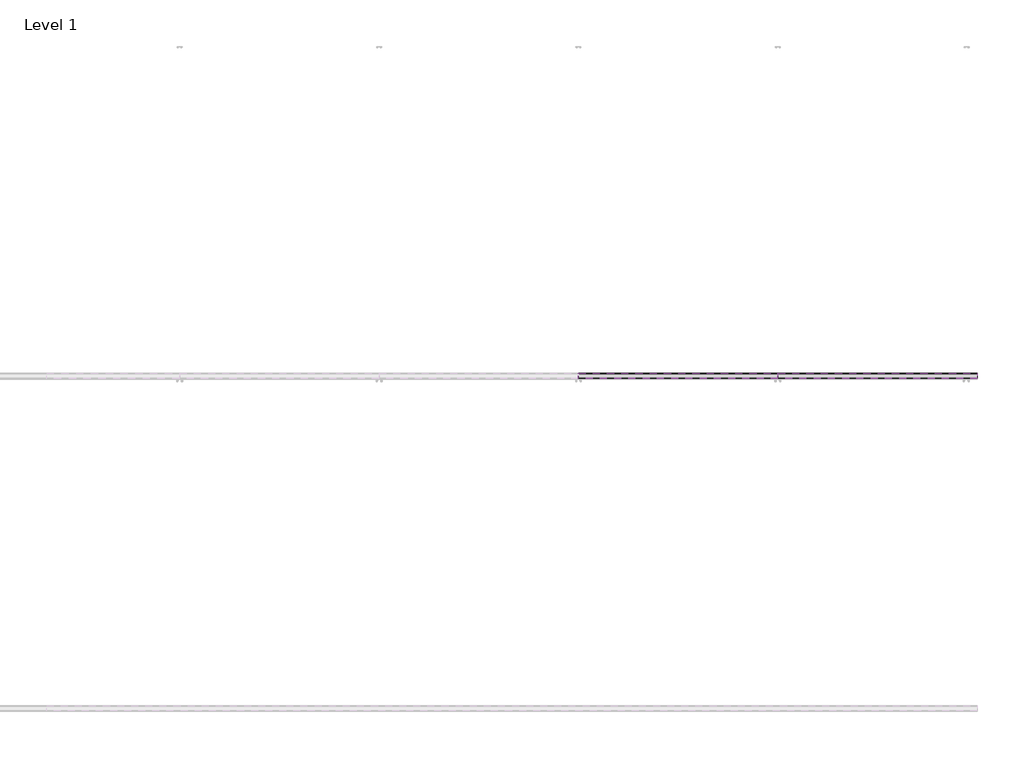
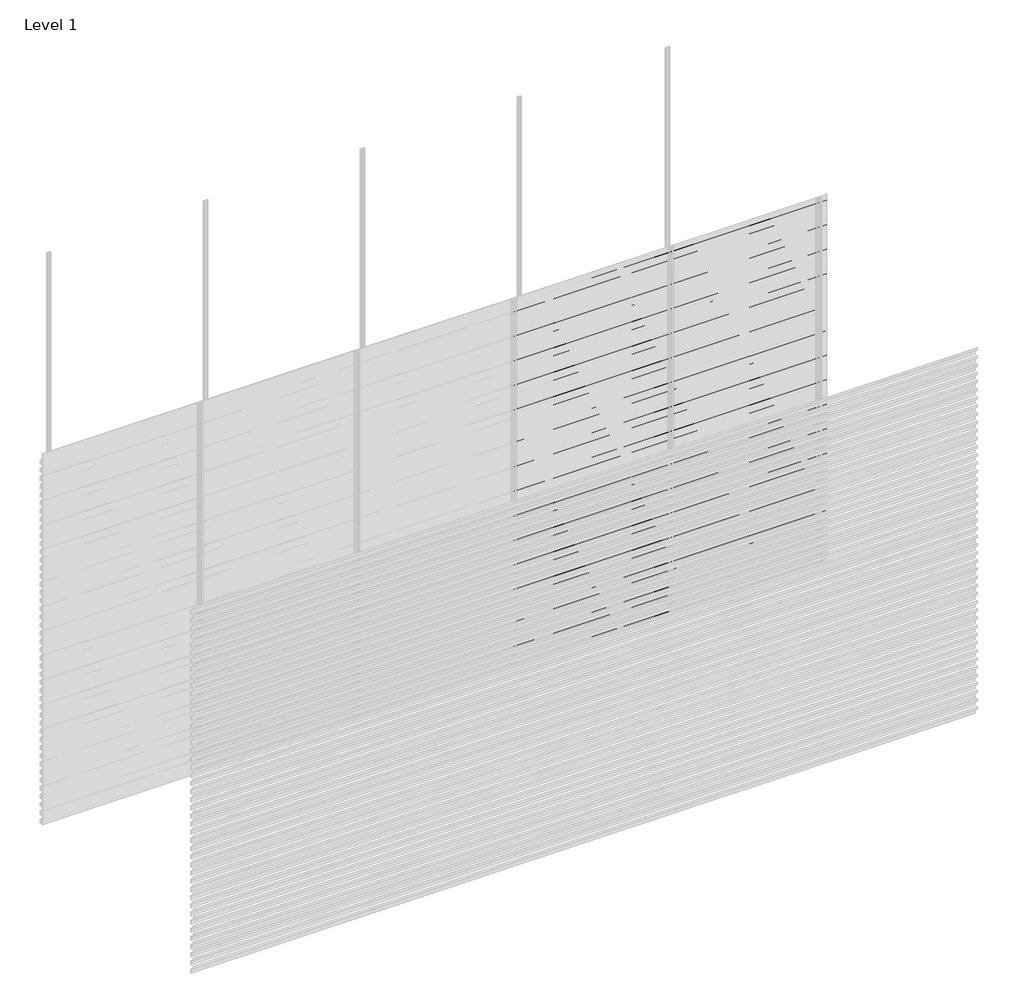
# One storey, part 30 of 33: 88 proxies.
"""IFC4 building model written with IfcOpenShell, lengths in millimetres."""

from ifc_helpers import new_model, si_unit, frame, origin, place, context, project, spatial, polyline, outline, extrude, element, save

model = new_model("IFC4")

# Units and contexts
model_context = context("Model", 3, world=origin())
ifc_project = project(units=[si_unit("LENGTHUNIT", "METRE", prefix="MILLI")], contexts=[model_context])

# Site, building, storey
site = spatial("IfcSite", under=ifc_project)
building = spatial("IfcBuilding", under=site)
storey = spatial("IfcBuildingStorey", under=building, Name="Level 1", Elevation=0.0)

# Proxies
placement = place(None, origin())
element("IfcBuildingElementProxy", 1, Name="Wall Sweeps", at=placement, inside=storey, context=model_context, shape_type="SweptSolid", body=[
    extrude(outline(polyline([(-5967.0, 92.0), (-5967.0, 59.0), (-5968.25, 59.7216933), (-5968.25, 91.2872415), (-5998.0, 112.0588647), (-5998.0, 132.0), (-5996.75, 132.0), (-5996.75, 112.7716232), (-5967.0, 92.0)])), frame((2400.0, 0.0, 0.0), z_axis=(1.0, 0.0, 0.0), x_axis=(0.0, 1.0, 0.0)), (0.0, 0.0, 1.0), 1200.0),
])
element("IfcBuildingElementProxy", 2, Name="Wall Sweeps", at=placement, inside=storey, context=model_context, shape_type="SweptSolid", body=[
    extrude(outline(polyline([(-5967.0, 26.0), (-5967.0, -7.0), (-5968.25, -6.2783067), (-5968.25, 25.2872415), (-5998.0, 46.0588647), (-5998.0, 66.0), (-5996.75, 66.0), (-5996.75, 46.7716232), (-5967.0, 26.0)])), frame((2400.0, 0.0, 0.0), z_axis=(1.0, 0.0, 0.0), x_axis=(0.0, 1.0, 0.0)), (0.0, 0.0, 1.0), 1200.0),
])
element("IfcBuildingElementProxy", 3, Name="Wall Sweeps", at=placement, inside=storey, context=model_context, shape_type="SweptSolid", body=[
    extrude(outline(polyline([(-5967.0, 2930.0), (-5967.0, 2897.0), (-5968.25, 2897.7216933), (-5968.25, 2929.2872415), (-5998.0, 2950.0588647), (-5998.0, 2970.0), (-5996.75, 2970.0), (-5996.75, 2950.7716232), (-5967.0, 2930.0)])), frame((3600.0, 0.0, 0.0), z_axis=(1.0, 0.0, 0.0), x_axis=(0.0, 1.0, 0.0)), (0.0, 0.0, 1.0), 1200.0),
])
element("IfcBuildingElementProxy", 4, Name="Wall Sweeps", at=placement, inside=storey, context=model_context, shape_type="SweptSolid", body=[
    extrude(outline(polyline([(-5967.0, 2864.0), (-5967.0, 2831.0), (-5968.25, 2831.7216933), (-5968.25, 2863.2872415), (-5998.0, 2884.0588647), (-5998.0, 2904.0), (-5996.75, 2904.0), (-5996.75, 2884.7716232), (-5967.0, 2864.0)])), frame((3600.0, 0.0, 0.0), z_axis=(1.0, 0.0, 0.0), x_axis=(0.0, 1.0, 0.0)), (0.0, 0.0, 1.0), 1200.0),
])
element("IfcBuildingElementProxy", 5, Name="Wall Sweeps", at=placement, inside=storey, context=model_context, shape_type="SweptSolid", body=[
    extrude(outline(polyline([(-5967.0, 2798.0), (-5967.0, 2765.0), (-5968.25, 2765.7216933), (-5968.25, 2797.2872415), (-5998.0, 2818.0588647), (-5998.0, 2838.0), (-5996.75, 2838.0), (-5996.75, 2818.7716232), (-5967.0, 2798.0)])), frame((3600.0, 0.0, 0.0), z_axis=(1.0, 0.0, 0.0), x_axis=(0.0, 1.0, 0.0)), (0.0, 0.0, 1.0), 1200.0),
])
element("IfcBuildingElementProxy", 6, Name="Wall Sweeps", at=placement, inside=storey, context=model_context, shape_type="SweptSolid", body=[
    extrude(outline(polyline([(-5967.0, 2732.0), (-5967.0, 2699.0), (-5968.25, 2699.7216933), (-5968.25, 2731.2872415), (-5998.0, 2752.0588647), (-5998.0, 2772.0), (-5996.75, 2772.0), (-5996.75, 2752.7716232), (-5967.0, 2732.0)])), frame((3600.0, 0.0, 0.0), z_axis=(1.0, 0.0, 0.0), x_axis=(0.0, 1.0, 0.0)), (0.0, 0.0, 1.0), 1200.0),
])
element("IfcBuildingElementProxy", 7, Name="Wall Sweeps", at=placement, inside=storey, context=model_context, shape_type="SweptSolid", body=[
    extrude(outline(polyline([(-5967.0, 2666.0), (-5967.0, 2633.0), (-5968.25, 2633.7216933), (-5968.25, 2665.2872415), (-5998.0, 2686.0588647), (-5998.0, 2706.0), (-5996.75, 2706.0), (-5996.75, 2686.7716232), (-5967.0, 2666.0)])), frame((3600.0, 0.0, 0.0), z_axis=(1.0, 0.0, 0.0), x_axis=(0.0, 1.0, 0.0)), (0.0, 0.0, 1.0), 1200.0),
])
element("IfcBuildingElementProxy", 8, Name="Wall Sweeps", at=placement, inside=storey, context=model_context, shape_type="SweptSolid", body=[
    extrude(outline(polyline([(-5967.0, 2600.0), (-5967.0, 2567.0), (-5968.25, 2567.7216933), (-5968.25, 2599.2872415), (-5998.0, 2620.0588647), (-5998.0, 2640.0), (-5996.75, 2640.0), (-5996.75, 2620.7716232), (-5967.0, 2600.0)])), frame((3600.0, 0.0, 0.0), z_axis=(1.0, 0.0, 0.0), x_axis=(0.0, 1.0, 0.0)), (0.0, 0.0, 1.0), 1200.0),
])
element("IfcBuildingElementProxy", 9, Name="Wall Sweeps", at=placement, inside=storey, context=model_context, shape_type="SweptSolid", body=[
    extrude(outline(polyline([(-5967.0, 2534.0), (-5967.0, 2501.0), (-5968.25, 2501.7216933), (-5968.25, 2533.2872415), (-5998.0, 2554.0588647), (-5998.0, 2574.0), (-5996.75, 2574.0), (-5996.75, 2554.7716232), (-5967.0, 2534.0)])), frame((3600.0, 0.0, 0.0), z_axis=(1.0, 0.0, 0.0), x_axis=(0.0, 1.0, 0.0)), (0.0, 0.0, 1.0), 1200.0),
])
element("IfcBuildingElementProxy", 10, Name="Wall Sweeps", at=placement, inside=storey, context=model_context, shape_type="SweptSolid", body=[
    extrude(outline(polyline([(-5967.0, 2468.0), (-5967.0, 2435.0), (-5968.25, 2435.7216933), (-5968.25, 2467.2872415), (-5998.0, 2488.0588647), (-5998.0, 2508.0), (-5996.75, 2508.0), (-5996.75, 2488.7716232), (-5967.0, 2468.0)])), frame((3600.0, 0.0, 0.0), z_axis=(1.0, 0.0, 0.0), x_axis=(0.0, 1.0, 0.0)), (0.0, 0.0, 1.0), 1200.0),
])
element("IfcBuildingElementProxy", 11, Name="Wall Sweeps", at=placement, inside=storey, context=model_context, shape_type="SweptSolid", body=[
    extrude(outline(polyline([(-5967.0, 2402.0), (-5967.0, 2369.0), (-5968.25, 2369.7216933), (-5968.25, 2401.2872415), (-5998.0, 2422.0588647), (-5998.0, 2442.0), (-5996.75, 2442.0), (-5996.75, 2422.7716232), (-5967.0, 2402.0)])), frame((3600.0, 0.0, 0.0), z_axis=(1.0, 0.0, 0.0), x_axis=(0.0, 1.0, 0.0)), (0.0, 0.0, 1.0), 1200.0),
])
element("IfcBuildingElementProxy", 12, Name="Wall Sweeps", at=placement, inside=storey, context=model_context, shape_type="SweptSolid", body=[
    extrude(outline(polyline([(-5967.0, 2336.0), (-5967.0, 2303.0), (-5968.25, 2303.7216933), (-5968.25, 2335.2872415), (-5998.0, 2356.0588647), (-5998.0, 2376.0), (-5996.75, 2376.0), (-5996.75, 2356.7716232), (-5967.0, 2336.0)])), frame((3600.0, 0.0, 0.0), z_axis=(1.0, 0.0, 0.0), x_axis=(0.0, 1.0, 0.0)), (0.0, 0.0, 1.0), 1200.0),
])
element("IfcBuildingElementProxy", 13, Name="Wall Sweeps", at=placement, inside=storey, context=model_context, shape_type="SweptSolid", body=[
    extrude(outline(polyline([(-5967.0, 2270.0), (-5967.0, 2237.0), (-5968.25, 2237.7216933), (-5968.25, 2269.2872415), (-5998.0, 2290.0588647), (-5998.0, 2310.0), (-5996.75, 2310.0), (-5996.75, 2290.7716232), (-5967.0, 2270.0)])), frame((3600.0, 0.0, 0.0), z_axis=(1.0, 0.0, 0.0), x_axis=(0.0, 1.0, 0.0)), (0.0, 0.0, 1.0), 1200.0),
])
element("IfcBuildingElementProxy", 14, Name="Wall Sweeps", at=placement, inside=storey, context=model_context, shape_type="SweptSolid", body=[
    extrude(outline(polyline([(-5967.0, 2204.0), (-5967.0, 2171.0), (-5968.25, 2171.7216933), (-5968.25, 2203.2872415), (-5998.0, 2224.0588647), (-5998.0, 2244.0), (-5996.75, 2244.0), (-5996.75, 2224.7716232), (-5967.0, 2204.0)])), frame((3600.0, 0.0, 0.0), z_axis=(1.0, 0.0, 0.0), x_axis=(0.0, 1.0, 0.0)), (0.0, 0.0, 1.0), 1200.0),
])
element("IfcBuildingElementProxy", 15, Name="Wall Sweeps", at=placement, inside=storey, context=model_context, shape_type="SweptSolid", body=[
    extrude(outline(polyline([(-5967.0, 2138.0), (-5967.0, 2105.0), (-5968.25, 2105.7216933), (-5968.25, 2137.2872415), (-5998.0, 2158.0588647), (-5998.0, 2178.0), (-5996.75, 2178.0), (-5996.75, 2158.7716232), (-5967.0, 2138.0)])), frame((3600.0, 0.0, 0.0), z_axis=(1.0, 0.0, 0.0), x_axis=(0.0, 1.0, 0.0)), (0.0, 0.0, 1.0), 1200.0),
])
element("IfcBuildingElementProxy", 16, Name="Wall Sweeps", at=placement, inside=storey, context=model_context, shape_type="SweptSolid", body=[
    extrude(outline(polyline([(-5967.0, 2072.0), (-5967.0, 2039.0), (-5968.25, 2039.7216933), (-5968.25, 2071.2872415), (-5998.0, 2092.0588647), (-5998.0, 2112.0), (-5996.75, 2112.0), (-5996.75, 2092.7716232), (-5967.0, 2072.0)])), frame((3600.0, 0.0, 0.0), z_axis=(1.0, 0.0, 0.0), x_axis=(0.0, 1.0, 0.0)), (0.0, 0.0, 1.0), 1200.0),
])
element("IfcBuildingElementProxy", 17, Name="Wall Sweeps", at=placement, inside=storey, context=model_context, shape_type="SweptSolid", body=[
    extrude(outline(polyline([(-5967.0, 2006.0), (-5967.0, 1973.0), (-5968.25, 1973.7216933), (-5968.25, 2005.2872415), (-5998.0, 2026.0588647), (-5998.0, 2046.0), (-5996.75, 2046.0), (-5996.75, 2026.7716232), (-5967.0, 2006.0)])), frame((3600.0, 0.0, 0.0), z_axis=(1.0, 0.0, 0.0), x_axis=(0.0, 1.0, 0.0)), (0.0, 0.0, 1.0), 1200.0),
])
element("IfcBuildingElementProxy", 18, Name="Wall Sweeps", at=placement, inside=storey, context=model_context, shape_type="SweptSolid", body=[
    extrude(outline(polyline([(-5967.0, 1940.0), (-5967.0, 1907.0), (-5968.25, 1907.7216933), (-5968.25, 1939.2872415), (-5998.0, 1960.0588647), (-5998.0, 1980.0), (-5996.75, 1980.0), (-5996.75, 1960.7716232), (-5967.0, 1940.0)])), frame((3600.0, 0.0, 0.0), z_axis=(1.0, 0.0, 0.0), x_axis=(0.0, 1.0, 0.0)), (0.0, 0.0, 1.0), 1200.0),
])
element("IfcBuildingElementProxy", 19, Name="Wall Sweeps", at=placement, inside=storey, context=model_context, shape_type="SweptSolid", body=[
    extrude(outline(polyline([(-5967.0, 1874.0), (-5967.0, 1841.0), (-5968.25, 1841.7216933), (-5968.25, 1873.2872415), (-5998.0, 1894.0588647), (-5998.0, 1914.0), (-5996.75, 1914.0), (-5996.75, 1894.7716232), (-5967.0, 1874.0)])), frame((3600.0, 0.0, 0.0), z_axis=(1.0, 0.0, 0.0), x_axis=(0.0, 1.0, 0.0)), (0.0, 0.0, 1.0), 1200.0),
])
element("IfcBuildingElementProxy", 20, Name="Wall Sweeps", at=placement, inside=storey, context=model_context, shape_type="SweptSolid", body=[
    extrude(outline(polyline([(-5967.0, 1808.0), (-5967.0, 1775.0), (-5968.25, 1775.7216933), (-5968.25, 1807.2872415), (-5998.0, 1828.0588647), (-5998.0, 1848.0), (-5996.75, 1848.0), (-5996.75, 1828.7716232), (-5967.0, 1808.0)])), frame((3600.0, 0.0, 0.0), z_axis=(1.0, 0.0, 0.0), x_axis=(0.0, 1.0, 0.0)), (0.0, 0.0, 1.0), 1200.0),
])
element("IfcBuildingElementProxy", 21, Name="Wall Sweeps", at=placement, inside=storey, context=model_context, shape_type="SweptSolid", body=[
    extrude(outline(polyline([(-5967.0, 1742.0), (-5967.0, 1709.0), (-5968.25, 1709.7216933), (-5968.25, 1741.2872415), (-5998.0, 1762.0588647), (-5998.0, 1782.0), (-5996.75, 1782.0), (-5996.75, 1762.7716232), (-5967.0, 1742.0)])), frame((3600.0, 0.0, 0.0), z_axis=(1.0, 0.0, 0.0), x_axis=(0.0, 1.0, 0.0)), (0.0, 0.0, 1.0), 1200.0),
])
element("IfcBuildingElementProxy", 22, Name="Wall Sweeps", at=placement, inside=storey, context=model_context, shape_type="SweptSolid", body=[
    extrude(outline(polyline([(-5967.0, 1676.0), (-5967.0, 1643.0), (-5968.25, 1643.7216933), (-5968.25, 1675.2872415), (-5998.0, 1696.0588647), (-5998.0, 1716.0), (-5996.75, 1716.0), (-5996.75, 1696.7716232), (-5967.0, 1676.0)])), frame((3600.0, 0.0, 0.0), z_axis=(1.0, 0.0, 0.0), x_axis=(0.0, 1.0, 0.0)), (0.0, 0.0, 1.0), 1200.0),
])
element("IfcBuildingElementProxy", 23, Name="Wall Sweeps", at=placement, inside=storey, context=model_context, shape_type="SweptSolid", body=[
    extrude(outline(polyline([(-5967.0, 1610.0), (-5967.0, 1577.0), (-5968.25, 1577.7216933), (-5968.25, 1609.2872415), (-5998.0, 1630.0588647), (-5998.0, 1650.0), (-5996.75, 1650.0), (-5996.75, 1630.7716232), (-5967.0, 1610.0)])), frame((3600.0, 0.0, 0.0), z_axis=(1.0, 0.0, 0.0), x_axis=(0.0, 1.0, 0.0)), (0.0, 0.0, 1.0), 1200.0),
])
element("IfcBuildingElementProxy", 24, Name="Wall Sweeps", at=placement, inside=storey, context=model_context, shape_type="SweptSolid", body=[
    extrude(outline(polyline([(-5967.0, 1544.0), (-5967.0, 1511.0), (-5968.25, 1511.7216933), (-5968.25, 1543.2872415), (-5998.0, 1564.0588647), (-5998.0, 1584.0), (-5996.75, 1584.0), (-5996.75, 1564.7716232), (-5967.0, 1544.0)])), frame((3600.0, 0.0, 0.0), z_axis=(1.0, 0.0, 0.0), x_axis=(0.0, 1.0, 0.0)), (0.0, 0.0, 1.0), 1200.0),
])
element("IfcBuildingElementProxy", 25, Name="Wall Sweeps", at=placement, inside=storey, context=model_context, shape_type="SweptSolid", body=[
    extrude(outline(polyline([(-5967.0, 1478.0), (-5967.0, 1445.0), (-5968.25, 1445.7216933), (-5968.25, 1477.2872415), (-5998.0, 1498.0588647), (-5998.0, 1518.0), (-5996.75, 1518.0), (-5996.75, 1498.7716232), (-5967.0, 1478.0)])), frame((3600.0, 0.0, 0.0), z_axis=(1.0, 0.0, 0.0), x_axis=(0.0, 1.0, 0.0)), (0.0, 0.0, 1.0), 1200.0),
])
element("IfcBuildingElementProxy", 26, Name="Wall Sweeps", at=placement, inside=storey, context=model_context, shape_type="SweptSolid", body=[
    extrude(outline(polyline([(-5967.0, 1412.0), (-5967.0, 1379.0), (-5968.25, 1379.7216933), (-5968.25, 1411.2872415), (-5998.0, 1432.0588647), (-5998.0, 1452.0), (-5996.75, 1452.0), (-5996.75, 1432.7716232), (-5967.0, 1412.0)])), frame((3600.0, 0.0, 0.0), z_axis=(1.0, 0.0, 0.0), x_axis=(0.0, 1.0, 0.0)), (0.0, 0.0, 1.0), 1200.0),
])
element("IfcBuildingElementProxy", 27, Name="Wall Sweeps", at=placement, inside=storey, context=model_context, shape_type="SweptSolid", body=[
    extrude(outline(polyline([(-5967.0, 1346.0), (-5967.0, 1313.0), (-5968.25, 1313.7216933), (-5968.25, 1345.2872415), (-5998.0, 1366.0588647), (-5998.0, 1386.0), (-5996.75, 1386.0), (-5996.75, 1366.7716232), (-5967.0, 1346.0)])), frame((3600.0, 0.0, 0.0), z_axis=(1.0, 0.0, 0.0), x_axis=(0.0, 1.0, 0.0)), (0.0, 0.0, 1.0), 1200.0),
])
element("IfcBuildingElementProxy", 28, Name="Wall Sweeps", at=placement, inside=storey, context=model_context, shape_type="SweptSolid", body=[
    extrude(outline(polyline([(-5967.0, 1280.0), (-5967.0, 1247.0), (-5968.25, 1247.7216933), (-5968.25, 1279.2872415), (-5998.0, 1300.0588647), (-5998.0, 1320.0), (-5996.75, 1320.0), (-5996.75, 1300.7716232), (-5967.0, 1280.0)])), frame((3600.0, 0.0, 0.0), z_axis=(1.0, 0.0, 0.0), x_axis=(0.0, 1.0, 0.0)), (0.0, 0.0, 1.0), 1200.0),
])
element("IfcBuildingElementProxy", 29, Name="Wall Sweeps", at=placement, inside=storey, context=model_context, shape_type="SweptSolid", body=[
    extrude(outline(polyline([(-5967.0, 1214.0), (-5967.0, 1181.0), (-5968.25, 1181.7216933), (-5968.25, 1213.2872415), (-5998.0, 1234.0588647), (-5998.0, 1254.0), (-5996.75, 1254.0), (-5996.75, 1234.7716232), (-5967.0, 1214.0)])), frame((3600.0, 0.0, 0.0), z_axis=(1.0, 0.0, 0.0), x_axis=(0.0, 1.0, 0.0)), (0.0, 0.0, 1.0), 1200.0),
])
element("IfcBuildingElementProxy", 30, Name="Wall Sweeps", at=placement, inside=storey, context=model_context, shape_type="SweptSolid", body=[
    extrude(outline(polyline([(-5967.0, 1148.0), (-5967.0, 1115.0), (-5968.25, 1115.7216933), (-5968.25, 1147.2872415), (-5998.0, 1168.0588647), (-5998.0, 1188.0), (-5996.75, 1188.0), (-5996.75, 1168.7716232), (-5967.0, 1148.0)])), frame((3600.0, 0.0, 0.0), z_axis=(1.0, 0.0, 0.0), x_axis=(0.0, 1.0, 0.0)), (0.0, 0.0, 1.0), 1200.0),
])
element("IfcBuildingElementProxy", 31, Name="Wall Sweeps", at=placement, inside=storey, context=model_context, shape_type="SweptSolid", body=[
    extrude(outline(polyline([(-5967.0, 1082.0), (-5967.0, 1049.0), (-5968.25, 1049.7216933), (-5968.25, 1081.2872415), (-5998.0, 1102.0588647), (-5998.0, 1122.0), (-5996.75, 1122.0), (-5996.75, 1102.7716232), (-5967.0, 1082.0)])), frame((3600.0, 0.0, 0.0), z_axis=(1.0, 0.0, 0.0), x_axis=(0.0, 1.0, 0.0)), (0.0, 0.0, 1.0), 1200.0),
])
element("IfcBuildingElementProxy", 32, Name="Wall Sweeps", at=placement, inside=storey, context=model_context, shape_type="SweptSolid", body=[
    extrude(outline(polyline([(-5967.0, 1016.0), (-5967.0, 983.0), (-5968.25, 983.7216933), (-5968.25, 1015.2872415), (-5998.0, 1036.0588647), (-5998.0, 1056.0), (-5996.75, 1056.0), (-5996.75, 1036.7716232), (-5967.0, 1016.0)])), frame((3600.0, 0.0, 0.0), z_axis=(1.0, 0.0, 0.0), x_axis=(0.0, 1.0, 0.0)), (0.0, 0.0, 1.0), 1200.0),
])
element("IfcBuildingElementProxy", 33, Name="Wall Sweeps", at=placement, inside=storey, context=model_context, shape_type="SweptSolid", body=[
    extrude(outline(polyline([(-5967.0, 950.0), (-5967.0, 917.0), (-5968.25, 917.7216933), (-5968.25, 949.2872415), (-5998.0, 970.0588647), (-5998.0, 990.0), (-5996.75, 990.0), (-5996.75, 970.7716232), (-5967.0, 950.0)])), frame((3600.0, 0.0, 0.0), z_axis=(1.0, 0.0, 0.0), x_axis=(0.0, 1.0, 0.0)), (0.0, 0.0, 1.0), 1200.0),
])
element("IfcBuildingElementProxy", 34, Name="Wall Sweeps", at=placement, inside=storey, context=model_context, shape_type="SweptSolid", body=[
    extrude(outline(polyline([(-5967.0, 884.0), (-5967.0, 851.0), (-5968.25, 851.7216933), (-5968.25, 883.2872415), (-5998.0, 904.0588647), (-5998.0, 924.0), (-5996.75, 924.0), (-5996.75, 904.7716232), (-5967.0, 884.0)])), frame((3600.0, 0.0, 0.0), z_axis=(1.0, 0.0, 0.0), x_axis=(0.0, 1.0, 0.0)), (0.0, 0.0, 1.0), 1200.0),
])
element("IfcBuildingElementProxy", 35, Name="Wall Sweeps", at=placement, inside=storey, context=model_context, shape_type="SweptSolid", body=[
    extrude(outline(polyline([(-5967.0, 818.0), (-5967.0, 785.0), (-5968.25, 785.7216933), (-5968.25, 817.2872415), (-5998.0, 838.0588647), (-5998.0, 858.0), (-5996.75, 858.0), (-5996.75, 838.7716232), (-5967.0, 818.0)])), frame((3600.0, 0.0, 0.0), z_axis=(1.0, 0.0, 0.0), x_axis=(0.0, 1.0, 0.0)), (0.0, 0.0, 1.0), 1200.0),
])
element("IfcBuildingElementProxy", 36, Name="Wall Sweeps", at=placement, inside=storey, context=model_context, shape_type="SweptSolid", body=[
    extrude(outline(polyline([(-5967.0, 752.0), (-5967.0, 719.0), (-5968.25, 719.7216933), (-5968.25, 751.2872415), (-5998.0, 772.0588647), (-5998.0, 792.0), (-5996.75, 792.0), (-5996.75, 772.7716232), (-5967.0, 752.0)])), frame((3600.0, 0.0, 0.0), z_axis=(1.0, 0.0, 0.0), x_axis=(0.0, 1.0, 0.0)), (0.0, 0.0, 1.0), 1200.0),
])
element("IfcBuildingElementProxy", 37, Name="Wall Sweeps", at=placement, inside=storey, context=model_context, shape_type="SweptSolid", body=[
    extrude(outline(polyline([(-5967.0, 686.0), (-5967.0, 653.0), (-5968.25, 653.7216933), (-5968.25, 685.2872415), (-5998.0, 706.0588647), (-5998.0, 726.0), (-5996.75, 726.0), (-5996.75, 706.7716232), (-5967.0, 686.0)])), frame((3600.0, 0.0, 0.0), z_axis=(1.0, 0.0, 0.0), x_axis=(0.0, 1.0, 0.0)), (0.0, 0.0, 1.0), 1200.0),
])
element("IfcBuildingElementProxy", 38, Name="Wall Sweeps", at=placement, inside=storey, context=model_context, shape_type="SweptSolid", body=[
    extrude(outline(polyline([(-5967.0, 620.0), (-5967.0, 587.0), (-5968.25, 587.7216933), (-5968.25, 619.2872415), (-5998.0, 640.0588647), (-5998.0, 660.0), (-5996.75, 660.0), (-5996.75, 640.7716232), (-5967.0, 620.0)])), frame((3600.0, 0.0, 0.0), z_axis=(1.0, 0.0, 0.0), x_axis=(0.0, 1.0, 0.0)), (0.0, 0.0, 1.0), 1200.0),
])
element("IfcBuildingElementProxy", 39, Name="Wall Sweeps", at=placement, inside=storey, context=model_context, shape_type="SweptSolid", body=[
    extrude(outline(polyline([(-5967.0, 554.0), (-5967.0, 521.0), (-5968.25, 521.7216933), (-5968.25, 553.2872415), (-5998.0, 574.0588647), (-5998.0, 594.0), (-5996.75, 594.0), (-5996.75, 574.7716232), (-5967.0, 554.0)])), frame((3600.0, 0.0, 0.0), z_axis=(1.0, 0.0, 0.0), x_axis=(0.0, 1.0, 0.0)), (0.0, 0.0, 1.0), 1200.0),
])
element("IfcBuildingElementProxy", 40, Name="Wall Sweeps", at=placement, inside=storey, context=model_context, shape_type="SweptSolid", body=[
    extrude(outline(polyline([(-5967.0, 488.0), (-5967.0, 455.0), (-5968.25, 455.7216933), (-5968.25, 487.2872415), (-5998.0, 508.0588647), (-5998.0, 528.0), (-5996.75, 528.0), (-5996.75, 508.7716232), (-5967.0, 488.0)])), frame((3600.0, 0.0, 0.0), z_axis=(1.0, 0.0, 0.0), x_axis=(0.0, 1.0, 0.0)), (0.0, 0.0, 1.0), 1200.0),
])
element("IfcBuildingElementProxy", 41, Name="Wall Sweeps", at=placement, inside=storey, context=model_context, shape_type="SweptSolid", body=[
    extrude(outline(polyline([(-5967.0, 422.0), (-5967.0, 389.0), (-5968.25, 389.7216933), (-5968.25, 421.2872415), (-5998.0, 442.0588647), (-5998.0, 462.0), (-5996.75, 462.0), (-5996.75, 442.7716232), (-5967.0, 422.0)])), frame((3600.0, 0.0, 0.0), z_axis=(1.0, 0.0, 0.0), x_axis=(0.0, 1.0, 0.0)), (0.0, 0.0, 1.0), 1200.0),
])
element("IfcBuildingElementProxy", 42, Name="Wall Sweeps", at=placement, inside=storey, context=model_context, shape_type="SweptSolid", body=[
    extrude(outline(polyline([(-5967.0, 356.0), (-5967.0, 323.0), (-5968.25, 323.7216933), (-5968.25, 355.2872415), (-5998.0, 376.0588647), (-5998.0, 396.0), (-5996.75, 396.0), (-5996.75, 376.7716232), (-5967.0, 356.0)])), frame((3600.0, 0.0, 0.0), z_axis=(1.0, 0.0, 0.0), x_axis=(0.0, 1.0, 0.0)), (0.0, 0.0, 1.0), 1200.0),
])
element("IfcBuildingElementProxy", 43, Name="Wall Sweeps", at=placement, inside=storey, context=model_context, shape_type="SweptSolid", body=[
    extrude(outline(polyline([(-5967.0, 290.0), (-5967.0, 257.0), (-5968.25, 257.7216933), (-5968.25, 289.2872415), (-5998.0, 310.0588647), (-5998.0, 330.0), (-5996.75, 330.0), (-5996.75, 310.7716232), (-5967.0, 290.0)])), frame((3600.0, 0.0, 0.0), z_axis=(1.0, 0.0, 0.0), x_axis=(0.0, 1.0, 0.0)), (0.0, 0.0, 1.0), 1200.0),
])
element("IfcBuildingElementProxy", 44, Name="Wall Sweeps", at=placement, inside=storey, context=model_context, shape_type="SweptSolid", body=[
    extrude(outline(polyline([(-5967.0, 224.0), (-5967.0, 191.0), (-5968.25, 191.7216933), (-5968.25, 223.2872415), (-5998.0, 244.0588647), (-5998.0, 264.0), (-5996.75, 264.0), (-5996.75, 244.7716232), (-5967.0, 224.0)])), frame((3600.0, 0.0, 0.0), z_axis=(1.0, 0.0, 0.0), x_axis=(0.0, 1.0, 0.0)), (0.0, 0.0, 1.0), 1200.0),
])
element("IfcBuildingElementProxy", 45, Name="Wall Sweeps", at=placement, inside=storey, context=model_context, shape_type="SweptSolid", body=[
    extrude(outline(polyline([(-5967.0, 158.0), (-5967.0, 125.0), (-5968.25, 125.7216933), (-5968.25, 157.2872415), (-5998.0, 178.0588647), (-5998.0, 198.0), (-5996.75, 198.0), (-5996.75, 178.7716232), (-5967.0, 158.0)])), frame((3600.0, 0.0, 0.0), z_axis=(1.0, 0.0, 0.0), x_axis=(0.0, 1.0, 0.0)), (0.0, 0.0, 1.0), 1200.0),
])
element("IfcBuildingElementProxy", 46, Name="Wall Sweeps", at=placement, inside=storey, context=model_context, shape_type="SweptSolid", body=[
    extrude(outline(polyline([(-5967.0, 92.0), (-5967.0, 59.0), (-5968.25, 59.7216933), (-5968.25, 91.2872415), (-5998.0, 112.0588647), (-5998.0, 132.0), (-5996.75, 132.0), (-5996.75, 112.7716232), (-5967.0, 92.0)])), frame((3600.0, 0.0, 0.0), z_axis=(1.0, 0.0, 0.0), x_axis=(0.0, 1.0, 0.0)), (0.0, 0.0, 1.0), 1200.0),
])
element("IfcBuildingElementProxy", 47, Name="Wall Sweeps", at=placement, inside=storey, context=model_context, shape_type="SweptSolid", body=[
    extrude(outline(polyline([(-5967.0, 26.0), (-5967.0, -7.0), (-5968.25, -6.2783067), (-5968.25, 25.2872415), (-5998.0, 46.0588647), (-5998.0, 66.0), (-5996.75, 66.0), (-5996.75, 46.7716232), (-5967.0, 26.0)])), frame((3600.0, 0.0, 0.0), z_axis=(1.0, 0.0, 0.0), x_axis=(0.0, 1.0, 0.0)), (0.0, 0.0, 1.0), 1200.0),
])
element("IfcBuildingElementProxy", 48, Name="Wall Sweeps", at=placement, inside=storey, context=model_context, shape_type="SweptSolid", body=[
    extrude(outline(polyline([(-5967.0, 2930.0), (-5967.0, 2897.0), (-5968.25, 2897.7216933), (-5968.25, 2929.2872415), (-5998.0, 2950.0588647), (-5998.0, 2970.0), (-5996.75, 2970.0), (-5996.75, 2950.7716232), (-5967.0, 2930.0)])), frame((4800.0, 0.0, 0.0), z_axis=(1.0, 0.0, 0.0), x_axis=(0.0, 1.0, 0.0)), (0.0, 0.0, 1.0), 1200.0),
])
element("IfcBuildingElementProxy", 49, Name="Wall Sweeps", at=placement, inside=storey, context=model_context, shape_type="SweptSolid", body=[
    extrude(outline(polyline([(-5967.0, 2864.0), (-5967.0, 2831.0), (-5968.25, 2831.7216933), (-5968.25, 2863.2872415), (-5998.0, 2884.0588647), (-5998.0, 2904.0), (-5996.75, 2904.0), (-5996.75, 2884.7716232), (-5967.0, 2864.0)])), frame((4800.0, 0.0, 0.0), z_axis=(1.0, 0.0, 0.0), x_axis=(0.0, 1.0, 0.0)), (0.0, 0.0, 1.0), 1200.0),
])
element("IfcBuildingElementProxy", 50, Name="Wall Sweeps", at=placement, inside=storey, context=model_context, shape_type="SweptSolid", body=[
    extrude(outline(polyline([(-5967.0, 2798.0), (-5967.0, 2765.0), (-5968.25, 2765.7216933), (-5968.25, 2797.2872415), (-5998.0, 2818.0588647), (-5998.0, 2838.0), (-5996.75, 2838.0), (-5996.75, 2818.7716232), (-5967.0, 2798.0)])), frame((4800.0, 0.0, 0.0), z_axis=(1.0, 0.0, 0.0), x_axis=(0.0, 1.0, 0.0)), (0.0, 0.0, 1.0), 1200.0),
])
element("IfcBuildingElementProxy", 51, Name="Wall Sweeps", at=placement, inside=storey, context=model_context, shape_type="SweptSolid", body=[
    extrude(outline(polyline([(-5967.0, 2732.0), (-5967.0, 2699.0), (-5968.25, 2699.7216933), (-5968.25, 2731.2872415), (-5998.0, 2752.0588647), (-5998.0, 2772.0), (-5996.75, 2772.0), (-5996.75, 2752.7716232), (-5967.0, 2732.0)])), frame((4800.0, 0.0, 0.0), z_axis=(1.0, 0.0, 0.0), x_axis=(0.0, 1.0, 0.0)), (0.0, 0.0, 1.0), 1200.0),
])
element("IfcBuildingElementProxy", 52, Name="Wall Sweeps", at=placement, inside=storey, context=model_context, shape_type="SweptSolid", body=[
    extrude(outline(polyline([(-5967.0, 2666.0), (-5967.0, 2633.0), (-5968.25, 2633.7216933), (-5968.25, 2665.2872415), (-5998.0, 2686.0588647), (-5998.0, 2706.0), (-5996.75, 2706.0), (-5996.75, 2686.7716232), (-5967.0, 2666.0)])), frame((4800.0, 0.0, 0.0), z_axis=(1.0, 0.0, 0.0), x_axis=(0.0, 1.0, 0.0)), (0.0, 0.0, 1.0), 1200.0),
])
element("IfcBuildingElementProxy", 53, Name="Wall Sweeps", at=placement, inside=storey, context=model_context, shape_type="SweptSolid", body=[
    extrude(outline(polyline([(-5967.0, 2600.0), (-5967.0, 2567.0), (-5968.25, 2567.7216933), (-5968.25, 2599.2872415), (-5998.0, 2620.0588647), (-5998.0, 2640.0), (-5996.75, 2640.0), (-5996.75, 2620.7716232), (-5967.0, 2600.0)])), frame((4800.0, 0.0, 0.0), z_axis=(1.0, 0.0, 0.0), x_axis=(0.0, 1.0, 0.0)), (0.0, 0.0, 1.0), 1200.0),
])
element("IfcBuildingElementProxy", 54, Name="Wall Sweeps", at=placement, inside=storey, context=model_context, shape_type="SweptSolid", body=[
    extrude(outline(polyline([(-5967.0, 2534.0), (-5967.0, 2501.0), (-5968.25, 2501.7216933), (-5968.25, 2533.2872415), (-5998.0, 2554.0588647), (-5998.0, 2574.0), (-5996.75, 2574.0), (-5996.75, 2554.7716232), (-5967.0, 2534.0)])), frame((4800.0, 0.0, 0.0), z_axis=(1.0, 0.0, 0.0), x_axis=(0.0, 1.0, 0.0)), (0.0, 0.0, 1.0), 1200.0),
])
element("IfcBuildingElementProxy", 55, Name="Wall Sweeps", at=placement, inside=storey, context=model_context, shape_type="SweptSolid", body=[
    extrude(outline(polyline([(-5967.0, 2468.0), (-5967.0, 2435.0), (-5968.25, 2435.7216933), (-5968.25, 2467.2872415), (-5998.0, 2488.0588647), (-5998.0, 2508.0), (-5996.75, 2508.0), (-5996.75, 2488.7716232), (-5967.0, 2468.0)])), frame((4800.0, 0.0, 0.0), z_axis=(1.0, 0.0, 0.0), x_axis=(0.0, 1.0, 0.0)), (0.0, 0.0, 1.0), 1200.0),
])
element("IfcBuildingElementProxy", 56, Name="Wall Sweeps", at=placement, inside=storey, context=model_context, shape_type="SweptSolid", body=[
    extrude(outline(polyline([(-5967.0, 2402.0), (-5967.0, 2369.0), (-5968.25, 2369.7216933), (-5968.25, 2401.2872415), (-5998.0, 2422.0588647), (-5998.0, 2442.0), (-5996.75, 2442.0), (-5996.75, 2422.7716232), (-5967.0, 2402.0)])), frame((4800.0, 0.0, 0.0), z_axis=(1.0, 0.0, 0.0), x_axis=(0.0, 1.0, 0.0)), (0.0, 0.0, 1.0), 1200.0),
])
element("IfcBuildingElementProxy", 57, Name="Wall Sweeps", at=placement, inside=storey, context=model_context, shape_type="SweptSolid", body=[
    extrude(outline(polyline([(-5967.0, 2336.0), (-5967.0, 2303.0), (-5968.25, 2303.7216933), (-5968.25, 2335.2872415), (-5998.0, 2356.0588647), (-5998.0, 2376.0), (-5996.75, 2376.0), (-5996.75, 2356.7716232), (-5967.0, 2336.0)])), frame((4800.0, 0.0, 0.0), z_axis=(1.0, 0.0, 0.0), x_axis=(0.0, 1.0, 0.0)), (0.0, 0.0, 1.0), 1200.0),
])
element("IfcBuildingElementProxy", 58, Name="Wall Sweeps", at=placement, inside=storey, context=model_context, shape_type="SweptSolid", body=[
    extrude(outline(polyline([(-5967.0, 2270.0), (-5967.0, 2237.0), (-5968.25, 2237.7216933), (-5968.25, 2269.2872415), (-5998.0, 2290.0588647), (-5998.0, 2310.0), (-5996.75, 2310.0), (-5996.75, 2290.7716232), (-5967.0, 2270.0)])), frame((4800.0, 0.0, 0.0), z_axis=(1.0, 0.0, 0.0), x_axis=(0.0, 1.0, 0.0)), (0.0, 0.0, 1.0), 1200.0),
])
element("IfcBuildingElementProxy", 59, Name="Wall Sweeps", at=placement, inside=storey, context=model_context, shape_type="SweptSolid", body=[
    extrude(outline(polyline([(-5967.0, 2204.0), (-5967.0, 2171.0), (-5968.25, 2171.7216933), (-5968.25, 2203.2872415), (-5998.0, 2224.0588647), (-5998.0, 2244.0), (-5996.75, 2244.0), (-5996.75, 2224.7716232), (-5967.0, 2204.0)])), frame((4800.0, 0.0, 0.0), z_axis=(1.0, 0.0, 0.0), x_axis=(0.0, 1.0, 0.0)), (0.0, 0.0, 1.0), 1200.0),
])
element("IfcBuildingElementProxy", 60, Name="Wall Sweeps", at=placement, inside=storey, context=model_context, shape_type="SweptSolid", body=[
    extrude(outline(polyline([(-5967.0, 2138.0), (-5967.0, 2105.0), (-5968.25, 2105.7216933), (-5968.25, 2137.2872415), (-5998.0, 2158.0588647), (-5998.0, 2178.0), (-5996.75, 2178.0), (-5996.75, 2158.7716232), (-5967.0, 2138.0)])), frame((4800.0, 0.0, 0.0), z_axis=(1.0, 0.0, 0.0), x_axis=(0.0, 1.0, 0.0)), (0.0, 0.0, 1.0), 1200.0),
])
element("IfcBuildingElementProxy", 61, Name="Wall Sweeps", at=placement, inside=storey, context=model_context, shape_type="SweptSolid", body=[
    extrude(outline(polyline([(-5967.0, 2072.0), (-5967.0, 2039.0), (-5968.25, 2039.7216933), (-5968.25, 2071.2872415), (-5998.0, 2092.0588647), (-5998.0, 2112.0), (-5996.75, 2112.0), (-5996.75, 2092.7716232), (-5967.0, 2072.0)])), frame((4800.0, 0.0, 0.0), z_axis=(1.0, 0.0, 0.0), x_axis=(0.0, 1.0, 0.0)), (0.0, 0.0, 1.0), 1200.0),
])
element("IfcBuildingElementProxy", 62, Name="Wall Sweeps", at=placement, inside=storey, context=model_context, shape_type="SweptSolid", body=[
    extrude(outline(polyline([(-5967.0, 2006.0), (-5967.0, 1973.0), (-5968.25, 1973.7216933), (-5968.25, 2005.2872415), (-5998.0, 2026.0588647), (-5998.0, 2046.0), (-5996.75, 2046.0), (-5996.75, 2026.7716232), (-5967.0, 2006.0)])), frame((4800.0, 0.0, 0.0), z_axis=(1.0, 0.0, 0.0), x_axis=(0.0, 1.0, 0.0)), (0.0, 0.0, 1.0), 1200.0),
])
element("IfcBuildingElementProxy", 63, Name="Wall Sweeps", at=placement, inside=storey, context=model_context, shape_type="SweptSolid", body=[
    extrude(outline(polyline([(-5967.0, 1940.0), (-5967.0, 1907.0), (-5968.25, 1907.7216933), (-5968.25, 1939.2872415), (-5998.0, 1960.0588647), (-5998.0, 1980.0), (-5996.75, 1980.0), (-5996.75, 1960.7716232), (-5967.0, 1940.0)])), frame((4800.0, 0.0, 0.0), z_axis=(1.0, 0.0, 0.0), x_axis=(0.0, 1.0, 0.0)), (0.0, 0.0, 1.0), 1200.0),
])
element("IfcBuildingElementProxy", 64, Name="Wall Sweeps", at=placement, inside=storey, context=model_context, shape_type="SweptSolid", body=[
    extrude(outline(polyline([(-5967.0, 1874.0), (-5967.0, 1841.0), (-5968.25, 1841.7216933), (-5968.25, 1873.2872415), (-5998.0, 1894.0588647), (-5998.0, 1914.0), (-5996.75, 1914.0), (-5996.75, 1894.7716232), (-5967.0, 1874.0)])), frame((4800.0, 0.0, 0.0), z_axis=(1.0, 0.0, 0.0), x_axis=(0.0, 1.0, 0.0)), (0.0, 0.0, 1.0), 1200.0),
])
element("IfcBuildingElementProxy", 65, Name="Wall Sweeps", at=placement, inside=storey, context=model_context, shape_type="SweptSolid", body=[
    extrude(outline(polyline([(-5967.0, 1808.0), (-5967.0, 1775.0), (-5968.25, 1775.7216933), (-5968.25, 1807.2872415), (-5998.0, 1828.0588647), (-5998.0, 1848.0), (-5996.75, 1848.0), (-5996.75, 1828.7716232), (-5967.0, 1808.0)])), frame((4800.0, 0.0, 0.0), z_axis=(1.0, 0.0, 0.0), x_axis=(0.0, 1.0, 0.0)), (0.0, 0.0, 1.0), 1200.0),
])
element("IfcBuildingElementProxy", 66, Name="Wall Sweeps", at=placement, inside=storey, context=model_context, shape_type="SweptSolid", body=[
    extrude(outline(polyline([(-5967.0, 1742.0), (-5967.0, 1709.0), (-5968.25, 1709.7216933), (-5968.25, 1741.2872415), (-5998.0, 1762.0588647), (-5998.0, 1782.0), (-5996.75, 1782.0), (-5996.75, 1762.7716232), (-5967.0, 1742.0)])), frame((4800.0, 0.0, 0.0), z_axis=(1.0, 0.0, 0.0), x_axis=(0.0, 1.0, 0.0)), (0.0, 0.0, 1.0), 1200.0),
])
element("IfcBuildingElementProxy", 67, Name="Wall Sweeps", at=placement, inside=storey, context=model_context, shape_type="SweptSolid", body=[
    extrude(outline(polyline([(-5967.0, 1676.0), (-5967.0, 1643.0), (-5968.25, 1643.7216933), (-5968.25, 1675.2872415), (-5998.0, 1696.0588647), (-5998.0, 1716.0), (-5996.75, 1716.0), (-5996.75, 1696.7716232), (-5967.0, 1676.0)])), frame((4800.0, 0.0, 0.0), z_axis=(1.0, 0.0, 0.0), x_axis=(0.0, 1.0, 0.0)), (0.0, 0.0, 1.0), 1200.0),
])
element("IfcBuildingElementProxy", 68, Name="Wall Sweeps", at=placement, inside=storey, context=model_context, shape_type="SweptSolid", body=[
    extrude(outline(polyline([(-5967.0, 1610.0), (-5967.0, 1577.0), (-5968.25, 1577.7216933), (-5968.25, 1609.2872415), (-5998.0, 1630.0588647), (-5998.0, 1650.0), (-5996.75, 1650.0), (-5996.75, 1630.7716232), (-5967.0, 1610.0)])), frame((4800.0, 0.0, 0.0), z_axis=(1.0, 0.0, 0.0), x_axis=(0.0, 1.0, 0.0)), (0.0, 0.0, 1.0), 1200.0),
])
element("IfcBuildingElementProxy", 69, Name="Wall Sweeps", at=placement, inside=storey, context=model_context, shape_type="SweptSolid", body=[
    extrude(outline(polyline([(-5967.0, 1544.0), (-5967.0, 1511.0), (-5968.25, 1511.7216933), (-5968.25, 1543.2872415), (-5998.0, 1564.0588647), (-5998.0, 1584.0), (-5996.75, 1584.0), (-5996.75, 1564.7716232), (-5967.0, 1544.0)])), frame((4800.0, 0.0, 0.0), z_axis=(1.0, 0.0, 0.0), x_axis=(0.0, 1.0, 0.0)), (0.0, 0.0, 1.0), 1200.0),
])
element("IfcBuildingElementProxy", 70, Name="Wall Sweeps", at=placement, inside=storey, context=model_context, shape_type="SweptSolid", body=[
    extrude(outline(polyline([(-5967.0, 1478.0), (-5967.0, 1445.0), (-5968.25, 1445.7216933), (-5968.25, 1477.2872415), (-5998.0, 1498.0588647), (-5998.0, 1518.0), (-5996.75, 1518.0), (-5996.75, 1498.7716232), (-5967.0, 1478.0)])), frame((4800.0, 0.0, 0.0), z_axis=(1.0, 0.0, 0.0), x_axis=(0.0, 1.0, 0.0)), (0.0, 0.0, 1.0), 1200.0),
])
element("IfcBuildingElementProxy", 71, Name="Wall Sweeps", at=placement, inside=storey, context=model_context, shape_type="SweptSolid", body=[
    extrude(outline(polyline([(-5967.0, 1412.0), (-5967.0, 1379.0), (-5968.25, 1379.7216933), (-5968.25, 1411.2872415), (-5998.0, 1432.0588647), (-5998.0, 1452.0), (-5996.75, 1452.0), (-5996.75, 1432.7716232), (-5967.0, 1412.0)])), frame((4800.0, 0.0, 0.0), z_axis=(1.0, 0.0, 0.0), x_axis=(0.0, 1.0, 0.0)), (0.0, 0.0, 1.0), 1200.0),
])
element("IfcBuildingElementProxy", 72, Name="Wall Sweeps", at=placement, inside=storey, context=model_context, shape_type="SweptSolid", body=[
    extrude(outline(polyline([(-5967.0, 1346.0), (-5967.0, 1313.0), (-5968.25, 1313.7216933), (-5968.25, 1345.2872415), (-5998.0, 1366.0588647), (-5998.0, 1386.0), (-5996.75, 1386.0), (-5996.75, 1366.7716232), (-5967.0, 1346.0)])), frame((4800.0, 0.0, 0.0), z_axis=(1.0, 0.0, 0.0), x_axis=(0.0, 1.0, 0.0)), (0.0, 0.0, 1.0), 1200.0),
])
element("IfcBuildingElementProxy", 73, Name="Wall Sweeps", at=placement, inside=storey, context=model_context, shape_type="SweptSolid", body=[
    extrude(outline(polyline([(-5967.0, 1280.0), (-5967.0, 1247.0), (-5968.25, 1247.7216933), (-5968.25, 1279.2872415), (-5998.0, 1300.0588647), (-5998.0, 1320.0), (-5996.75, 1320.0), (-5996.75, 1300.7716232), (-5967.0, 1280.0)])), frame((4800.0, 0.0, 0.0), z_axis=(1.0, 0.0, 0.0), x_axis=(0.0, 1.0, 0.0)), (0.0, 0.0, 1.0), 1200.0),
])
element("IfcBuildingElementProxy", 74, Name="Wall Sweeps", at=placement, inside=storey, context=model_context, shape_type="SweptSolid", body=[
    extrude(outline(polyline([(-5967.0, 1214.0), (-5967.0, 1181.0), (-5968.25, 1181.7216933), (-5968.25, 1213.2872415), (-5998.0, 1234.0588647), (-5998.0, 1254.0), (-5996.75, 1254.0), (-5996.75, 1234.7716232), (-5967.0, 1214.0)])), frame((4800.0, 0.0, 0.0), z_axis=(1.0, 0.0, 0.0), x_axis=(0.0, 1.0, 0.0)), (0.0, 0.0, 1.0), 1200.0),
])
element("IfcBuildingElementProxy", 75, Name="Wall Sweeps", at=placement, inside=storey, context=model_context, shape_type="SweptSolid", body=[
    extrude(outline(polyline([(-5967.0, 1148.0), (-5967.0, 1115.0), (-5968.25, 1115.7216933), (-5968.25, 1147.2872415), (-5998.0, 1168.0588647), (-5998.0, 1188.0), (-5996.75, 1188.0), (-5996.75, 1168.7716232), (-5967.0, 1148.0)])), frame((4800.0, 0.0, 0.0), z_axis=(1.0, 0.0, 0.0), x_axis=(0.0, 1.0, 0.0)), (0.0, 0.0, 1.0), 1200.0),
])
element("IfcBuildingElementProxy", 76, Name="Wall Sweeps", at=placement, inside=storey, context=model_context, shape_type="SweptSolid", body=[
    extrude(outline(polyline([(-5967.0, 1082.0), (-5967.0, 1049.0), (-5968.25, 1049.7216933), (-5968.25, 1081.2872415), (-5998.0, 1102.0588647), (-5998.0, 1122.0), (-5996.75, 1122.0), (-5996.75, 1102.7716232), (-5967.0, 1082.0)])), frame((4800.0, 0.0, 0.0), z_axis=(1.0, 0.0, 0.0), x_axis=(0.0, 1.0, 0.0)), (0.0, 0.0, 1.0), 1200.0),
])
element("IfcBuildingElementProxy", 77, Name="Wall Sweeps", at=placement, inside=storey, context=model_context, shape_type="SweptSolid", body=[
    extrude(outline(polyline([(-5967.0, 1016.0), (-5967.0, 983.0), (-5968.25, 983.7216933), (-5968.25, 1015.2872415), (-5998.0, 1036.0588647), (-5998.0, 1056.0), (-5996.75, 1056.0), (-5996.75, 1036.7716232), (-5967.0, 1016.0)])), frame((4800.0, 0.0, 0.0), z_axis=(1.0, 0.0, 0.0), x_axis=(0.0, 1.0, 0.0)), (0.0, 0.0, 1.0), 1200.0),
])
element("IfcBuildingElementProxy", 78, Name="Wall Sweeps", at=placement, inside=storey, context=model_context, shape_type="SweptSolid", body=[
    extrude(outline(polyline([(-5967.0, 950.0), (-5967.0, 917.0), (-5968.25, 917.7216933), (-5968.25, 949.2872415), (-5998.0, 970.0588647), (-5998.0, 990.0), (-5996.75, 990.0), (-5996.75, 970.7716232), (-5967.0, 950.0)])), frame((4800.0, 0.0, 0.0), z_axis=(1.0, 0.0, 0.0), x_axis=(0.0, 1.0, 0.0)), (0.0, 0.0, 1.0), 1200.0),
])
element("IfcBuildingElementProxy", 79, Name="Wall Sweeps", at=placement, inside=storey, context=model_context, shape_type="SweptSolid", body=[
    extrude(outline(polyline([(-5967.0, 884.0), (-5967.0, 851.0), (-5968.25, 851.7216933), (-5968.25, 883.2872415), (-5998.0, 904.0588647), (-5998.0, 924.0), (-5996.75, 924.0), (-5996.75, 904.7716232), (-5967.0, 884.0)])), frame((4800.0, 0.0, 0.0), z_axis=(1.0, 0.0, 0.0), x_axis=(0.0, 1.0, 0.0)), (0.0, 0.0, 1.0), 1200.0),
])
element("IfcBuildingElementProxy", 80, Name="Wall Sweeps", at=placement, inside=storey, context=model_context, shape_type="SweptSolid", body=[
    extrude(outline(polyline([(-5967.0, 818.0), (-5967.0, 785.0), (-5968.25, 785.7216933), (-5968.25, 817.2872415), (-5998.0, 838.0588647), (-5998.0, 858.0), (-5996.75, 858.0), (-5996.75, 838.7716232), (-5967.0, 818.0)])), frame((4800.0, 0.0, 0.0), z_axis=(1.0, 0.0, 0.0), x_axis=(0.0, 1.0, 0.0)), (0.0, 0.0, 1.0), 1200.0),
])
element("IfcBuildingElementProxy", 81, Name="Wall Sweeps", at=placement, inside=storey, context=model_context, shape_type="SweptSolid", body=[
    extrude(outline(polyline([(-5967.0, 752.0), (-5967.0, 719.0), (-5968.25, 719.7216933), (-5968.25, 751.2872415), (-5998.0, 772.0588647), (-5998.0, 792.0), (-5996.75, 792.0), (-5996.75, 772.7716232), (-5967.0, 752.0)])), frame((4800.0, 0.0, 0.0), z_axis=(1.0, 0.0, 0.0), x_axis=(0.0, 1.0, 0.0)), (0.0, 0.0, 1.0), 1200.0),
])
element("IfcBuildingElementProxy", 82, Name="Wall Sweeps", at=placement, inside=storey, context=model_context, shape_type="SweptSolid", body=[
    extrude(outline(polyline([(-5967.0, 686.0), (-5967.0, 653.0), (-5968.25, 653.7216933), (-5968.25, 685.2872415), (-5998.0, 706.0588647), (-5998.0, 726.0), (-5996.75, 726.0), (-5996.75, 706.7716232), (-5967.0, 686.0)])), frame((4800.0, 0.0, 0.0), z_axis=(1.0, 0.0, 0.0), x_axis=(0.0, 1.0, 0.0)), (0.0, 0.0, 1.0), 1200.0),
])
element("IfcBuildingElementProxy", 83, Name="Wall Sweeps", at=placement, inside=storey, context=model_context, shape_type="SweptSolid", body=[
    extrude(outline(polyline([(-5967.0, 620.0), (-5967.0, 587.0), (-5968.25, 587.7216933), (-5968.25, 619.2872415), (-5998.0, 640.0588647), (-5998.0, 660.0), (-5996.75, 660.0), (-5996.75, 640.7716232), (-5967.0, 620.0)])), frame((4800.0, 0.0, 0.0), z_axis=(1.0, 0.0, 0.0), x_axis=(0.0, 1.0, 0.0)), (0.0, 0.0, 1.0), 1200.0),
])
element("IfcBuildingElementProxy", 84, Name="Wall Sweeps", at=placement, inside=storey, context=model_context, shape_type="SweptSolid", body=[
    extrude(outline(polyline([(-5967.0, 554.0), (-5967.0, 521.0), (-5968.25, 521.7216933), (-5968.25, 553.2872415), (-5998.0, 574.0588647), (-5998.0, 594.0), (-5996.75, 594.0), (-5996.75, 574.7716232), (-5967.0, 554.0)])), frame((4800.0, 0.0, 0.0), z_axis=(1.0, 0.0, 0.0), x_axis=(0.0, 1.0, 0.0)), (0.0, 0.0, 1.0), 1200.0),
])
element("IfcBuildingElementProxy", 85, Name="Wall Sweeps", at=placement, inside=storey, context=model_context, shape_type="SweptSolid", body=[
    extrude(outline(polyline([(-5967.0, 488.0), (-5967.0, 455.0), (-5968.25, 455.7216933), (-5968.25, 487.2872415), (-5998.0, 508.0588647), (-5998.0, 528.0), (-5996.75, 528.0), (-5996.75, 508.7716232), (-5967.0, 488.0)])), frame((4800.0, 0.0, 0.0), z_axis=(1.0, 0.0, 0.0), x_axis=(0.0, 1.0, 0.0)), (0.0, 0.0, 1.0), 1200.0),
])
element("IfcBuildingElementProxy", 86, Name="Wall Sweeps", at=placement, inside=storey, context=model_context, shape_type="SweptSolid", body=[
    extrude(outline(polyline([(-5967.0, 422.0), (-5967.0, 389.0), (-5968.25, 389.7216933), (-5968.25, 421.2872415), (-5998.0, 442.0588647), (-5998.0, 462.0), (-5996.75, 462.0), (-5996.75, 442.7716232), (-5967.0, 422.0)])), frame((4800.0, 0.0, 0.0), z_axis=(1.0, 0.0, 0.0), x_axis=(0.0, 1.0, 0.0)), (0.0, 0.0, 1.0), 1200.0),
])
element("IfcBuildingElementProxy", 87, Name="Wall Sweeps", at=placement, inside=storey, context=model_context, shape_type="SweptSolid", body=[
    extrude(outline(polyline([(-5967.0, 356.0), (-5967.0, 323.0), (-5968.25, 323.7216933), (-5968.25, 355.2872415), (-5998.0, 376.0588647), (-5998.0, 396.0), (-5996.75, 396.0), (-5996.75, 376.7716232), (-5967.0, 356.0)])), frame((4800.0, 0.0, 0.0), z_axis=(1.0, 0.0, 0.0), x_axis=(0.0, 1.0, 0.0)), (0.0, 0.0, 1.0), 1200.0),
])
element("IfcBuildingElementProxy", 88, Name="Wall Sweeps", at=placement, inside=storey, context=model_context, shape_type="SweptSolid", body=[
    extrude(outline(polyline([(-5967.0, 290.0), (-5967.0, 257.0), (-5968.25, 257.7216933), (-5968.25, 289.2872415), (-5998.0, 310.0588647), (-5998.0, 330.0), (-5996.75, 330.0), (-5996.75, 310.7716232), (-5967.0, 290.0)])), frame((4800.0, 0.0, 0.0), z_axis=(1.0, 0.0, 0.0), x_axis=(0.0, 1.0, 0.0)), (0.0, 0.0, 1.0), 1200.0),
])

save(model, "model.ifc")
